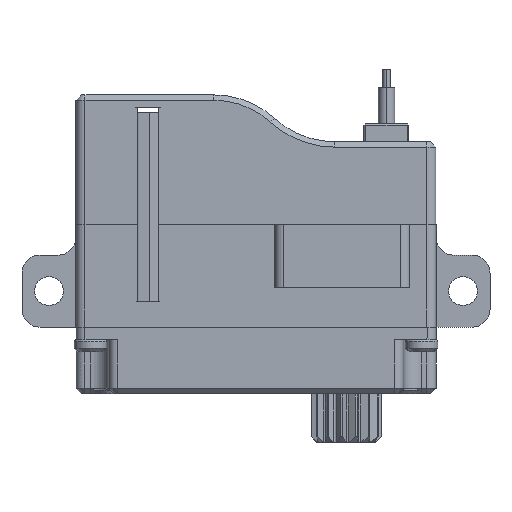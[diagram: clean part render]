
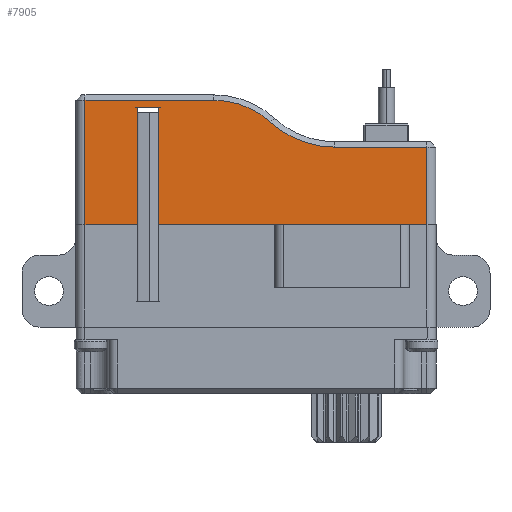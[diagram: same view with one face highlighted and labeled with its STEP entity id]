
A CAD part, front view. The second image highlights one B-rep face of the part: STEP entity #7905.
In plain terms, the highlighted planar face has unit normal (0, -1, 0).
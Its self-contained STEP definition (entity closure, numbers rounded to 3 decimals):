
#4 = VECTOR ( 'NONE', #540, 1000. ) ;
#22 = DIRECTION ( 'NONE',  ( -1., 0., 0. ) ) ;
#94 = CARTESIAN_POINT ( 'NONE',  ( -78.219, -5.931, 3.5 ) ) ;
#137 = DIRECTION ( 'NONE',  ( 0., 0., -1. ) ) ;
#244 = CARTESIAN_POINT ( 'NONE',  ( -83.832, -5.931, 7.8 ) ) ;
#254 = ORIENTED_EDGE ( 'NONE', *, *, #4187, .T. ) ;
#540 = DIRECTION ( 'NONE',  ( 1., 0., 0. ) ) ;
#664 = CARTESIAN_POINT ( 'NONE',  ( -97.719, -5.931, 10.4 ) ) ;
#783 = ORIENTED_EDGE ( 'NONE', *, *, #13657, .T. ) ;
#1685 = DIRECTION ( 'NONE',  ( 0., 0., 1. ) ) ;
#1794 = LINE ( 'NONE', #6884, #13177 ) ;
#2018 = LINE ( 'NONE', #14488, #5297 ) ;
#2562 = VERTEX_POINT ( 'NONE', #4964 ) ;
#2789 = ORIENTED_EDGE ( 'NONE', *, *, #16408, .T. ) ;
#3001 = VERTEX_POINT ( 'NONE', #16753 ) ;
#3131 = CARTESIAN_POINT ( 'NONE',  ( -93.625, -5.931, 10. ) ) ;
#3568 = VECTOR ( 'NONE', #14451, 1000. ) ;
#3675 = CARTESIAN_POINT ( 'NONE',  ( -90.558, -5.931, 10.4 ) ) ;
#3883 = VERTEX_POINT ( 'NONE', #16554 ) ;
#4179 = DIRECTION ( 'NONE',  ( 1., 0., 0. ) ) ;
#4187 = EDGE_CURVE ( 'NONE', #3883, #6335, #11813, .T. ) ;
#4232 = VECTOR ( 'NONE', #7701, 1000. ) ;
#4265 = DIRECTION ( 'NONE',  ( 0., 1., 0. ) ) ;
#4343 = CARTESIAN_POINT ( 'NONE',  ( -90.558, -5.931, 5.7 ) ) ;
#4405 = CARTESIAN_POINT ( 'NONE',  ( -97.719, -5.931, 10.4 ) ) ;
#4757 = EDGE_CURVE ( 'NONE', #5531, #3001, #2018, .T. ) ;
#4873 = VERTEX_POINT ( 'NONE', #9558 ) ;
#4917 = CIRCLE ( 'NONE', #14741, 5.3 ) ;
#4944 = CARTESIAN_POINT ( 'NONE',  ( -93.625, -5.931, 10. ) ) ;
#4964 = CARTESIAN_POINT ( 'NONE',  ( -78.719, -5.931, 7.8 ) ) ;
#5030 = ORIENTED_EDGE ( 'NONE', *, *, #9233, .T. ) ;
#5297 = VECTOR ( 'NONE', #10558, 1000. ) ;
#5531 = VERTEX_POINT ( 'NONE', #4944 ) ;
#5899 = EDGE_LOOP ( 'NONE', ( #783, #8116, #2789, #5030, #254, #10141, #13051, #8133, #11967, #7081, #13380 ) ) ;
#6331 = EDGE_CURVE ( 'NONE', #2562, #6980, #6626, .T. ) ;
#6335 = VERTEX_POINT ( 'NONE', #15826 ) ;
#6397 = EDGE_CURVE ( 'NONE', #8327, #16133, #8446, .T. ) ;
#6626 = LINE ( 'NONE', #244, #16576 ) ;
#6697 = VERTEX_POINT ( 'NONE', #664 ) ;
#6725 = VECTOR ( 'NONE', #4179, 1000. ) ;
#6884 = CARTESIAN_POINT ( 'NONE',  ( -78.719, -5.931, 10.7 ) ) ;
#6980 = VERTEX_POINT ( 'NONE', #9008 ) ;
#7081 = ORIENTED_EDGE ( 'NONE', *, *, #7121, .T. ) ;
#7121 = EDGE_CURVE ( 'NONE', #4873, #2562, #1794, .T. ) ;
#7294 = CARTESIAN_POINT ( 'NONE',  ( -94.812, -5.931, 10. ) ) ;
#7701 = DIRECTION ( 'NONE',  ( 0., 0., -1. ) ) ;
#7905 = ADVANCED_FACE ( 'NONE', ( #14505 ), #14620, .F. ) ;
#8116 = ORIENTED_EDGE ( 'NONE', *, *, #6397, .T. ) ;
#8133 = ORIENTED_EDGE ( 'NONE', *, *, #4757, .T. ) ;
#8185 = DIRECTION ( 'NONE',  ( -1., 0., 0. ) ) ;
#8224 = DIRECTION ( 'NONE',  ( -1., 0., 0. ) ) ;
#8327 = VERTEX_POINT ( 'NONE', #11525 ) ;
#8446 = CIRCLE ( 'NONE', #11505, 4.7 ) ;
#8503 = EDGE_CURVE ( 'NONE', #3001, #4873, #15276, .T. ) ;
#8853 = LINE ( 'NONE', #4405, #16556 ) ;
#9008 = CARTESIAN_POINT ( 'NONE',  ( -83.832, -5.931, 7.8 ) ) ;
#9233 = EDGE_CURVE ( 'NONE', #6697, #3883, #15613, .T. ) ;
#9532 = DIRECTION ( 'NONE',  ( 0., 0., -1. ) ) ;
#9558 = CARTESIAN_POINT ( 'NONE',  ( -78.719, -5.931, 3.5 ) ) ;
#10141 = ORIENTED_EDGE ( 'NONE', *, *, #15631, .T. ) ;
#10523 = CARTESIAN_POINT ( 'NONE',  ( -94.812, -5.931, 8.5 ) ) ;
#10558 = DIRECTION ( 'NONE',  ( 0., 0., -1. ) ) ;
#11505 = AXIS2_PLACEMENT_3D ( 'NONE', #4343, #15949, #16001 ) ;
#11525 = CARTESIAN_POINT ( 'NONE',  ( -87.397, -5.931, 9.178 ) ) ;
#11752 = AXIS2_PLACEMENT_3D ( 'NONE', #15867, #4265, #9532 ) ;
#11808 = CARTESIAN_POINT ( 'NONE',  ( -83.832, -5.931, 13.1 ) ) ;
#11813 = LINE ( 'NONE', #13458, #4 ) ;
#11913 = LINE ( 'NONE', #3131, #12532 ) ;
#11967 = ORIENTED_EDGE ( 'NONE', *, *, #8503, .T. ) ;
#12361 = LINE ( 'NONE', #10523, #3568 ) ;
#12532 = VECTOR ( 'NONE', #8224, 1000. ) ;
#12877 = CARTESIAN_POINT ( 'NONE',  ( -97.719, -5.931, 10.7 ) ) ;
#13051 = ORIENTED_EDGE ( 'NONE', *, *, #15356, .F. ) ;
#13108 = DIRECTION ( 'NONE',  ( 0., 1., 0. ) ) ;
#13177 = VECTOR ( 'NONE', #1685, 1000. ) ;
#13380 = ORIENTED_EDGE ( 'NONE', *, *, #6331, .T. ) ;
#13458 = CARTESIAN_POINT ( 'NONE',  ( -78.219, -5.931, 3.5 ) ) ;
#13657 = EDGE_CURVE ( 'NONE', #6980, #8327, #4917, .T. ) ;
#14451 = DIRECTION ( 'NONE',  ( 0., 0., 1. ) ) ;
#14488 = CARTESIAN_POINT ( 'NONE',  ( -93.625, -5.931, 8.5 ) ) ;
#14505 = FACE_OUTER_BOUND ( 'NONE', #5899, .T. ) ;
#14620 = PLANE ( 'NONE',  #11752 ) ;
#14741 = AXIS2_PLACEMENT_3D ( 'NONE', #11808, #13108, #137 ) ;
#15276 = LINE ( 'NONE', #94, #6725 ) ;
#15356 = EDGE_CURVE ( 'NONE', #5531, #15474, #11913, .T. ) ;
#15474 = VERTEX_POINT ( 'NONE', #7294 ) ;
#15613 = LINE ( 'NONE', #12877, #4232 ) ;
#15631 = EDGE_CURVE ( 'NONE', #6335, #15474, #12361, .T. ) ;
#15826 = CARTESIAN_POINT ( 'NONE',  ( -94.812, -5.931, 3.5 ) ) ;
#15867 = CARTESIAN_POINT ( 'NONE',  ( -78.219, -5.931, 10.7 ) ) ;
#15949 = DIRECTION ( 'NONE',  ( 0., -1., 0. ) ) ;
#16001 = DIRECTION ( 'NONE',  ( 0., 0., -1. ) ) ;
#16133 = VERTEX_POINT ( 'NONE', #3675 ) ;
#16408 = EDGE_CURVE ( 'NONE', #16133, #6697, #8853, .T. ) ;
#16554 = CARTESIAN_POINT ( 'NONE',  ( -97.719, -5.931, 3.5 ) ) ;
#16556 = VECTOR ( 'NONE', #8185, 1000. ) ;
#16576 = VECTOR ( 'NONE', #22, 1000. ) ;
#16753 = CARTESIAN_POINT ( 'NONE',  ( -93.625, -5.931, 3.5 ) ) ;
